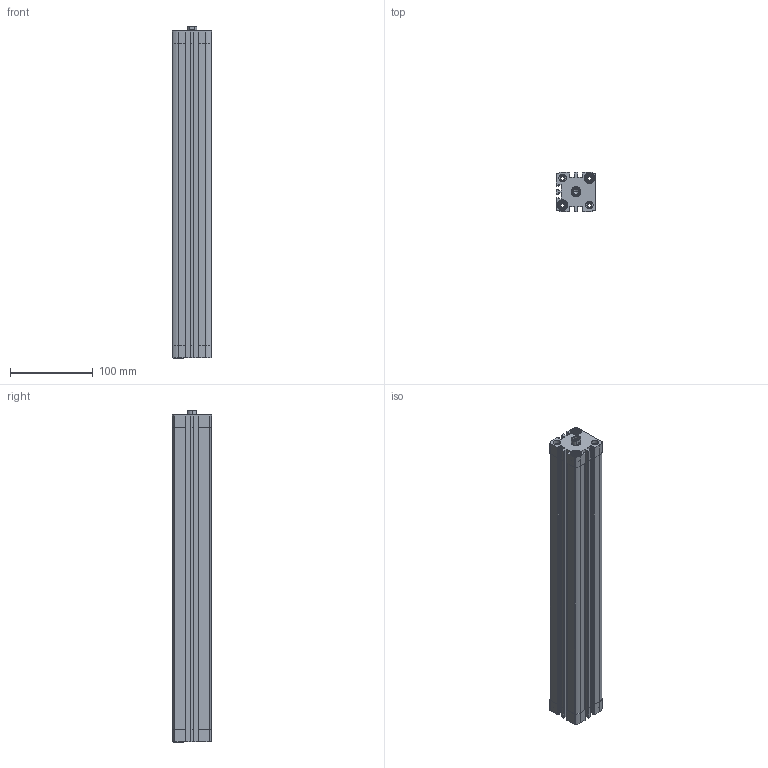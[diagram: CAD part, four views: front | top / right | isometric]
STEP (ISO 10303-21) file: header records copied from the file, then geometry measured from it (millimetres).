
FILE_DESCRIPTION (( 'STEP AP203' ), '1' );
FILE_NAME ('CCN32-350F.STEP', '2017-03-29T11:51:57', ( '' ), ( '' ), 'SwSTEP 2.0', 'SolidWorks 2016', '' );
FILE_SCHEMA (( 'CONFIG_CONTROL_DESIGN' ));
Length unit declared in the file: millimetre
Products named in the file (3): CCN-350_(KS); CCN32-350F; CCN-350---(Z)
Assembly tree (2 placements, depth 2):
  CCN32-350F
    CCN-350---(Z)
    CCN-350_(KS)
Bounding box: 47 x 47 x 400 mm (x, y, z)
Volume: 473019.4 mm3; surface area: 192907 mm2
Topology: 2 solids, 2 shells, 479 faces, 1300 edges, 855 vertices
Faces by surface type: plane 267, cylinder 170, cone 42
Entity records: 15609 total; most frequent: CARTESIAN_POINT 2931, DIRECTION 2656, ORIENTED_EDGE 2596, EDGE_CURVE 1298, AXIS2_PLACEMENT_3D 972, VERTEX_POINT 855, VECTOR 712, LINE 712
